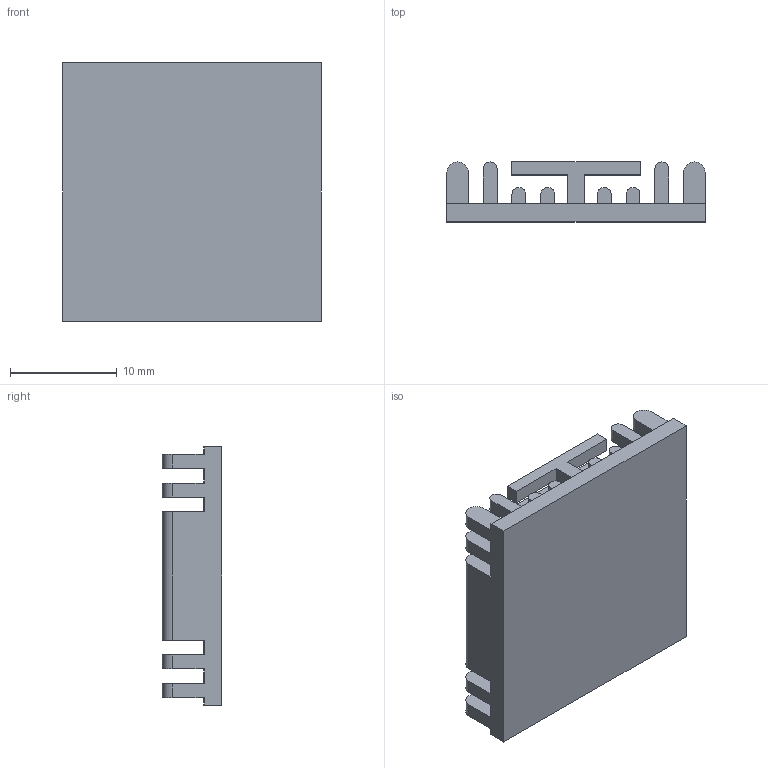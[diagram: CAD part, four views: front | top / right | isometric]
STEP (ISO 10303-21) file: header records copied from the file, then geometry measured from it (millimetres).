
FILE_DESCRIPTION (( 'STEP AP214' ), '1' );
FILE_NAME ('THN-HS1.STEP', '2018-11-05T02:21:45', ( 'user' ), ( '' ), 'SwSTEP 2.0', 'SolidWorks 2016', '' );
FILE_SCHEMA (( 'AUTOMOTIVE_DESIGN' ));
Length unit declared in the file: millimetre
Products named in the file (1): THN-HS1
Bounding box: 24.2 x 5.6 x 24.2 mm (x, y, z)
Volume: 1853.9 mm3; surface area: 2990.1 mm2
Topology: 1 solids, 1 shells, 221 faces, 637 edges, 418 vertices
Faces by surface type: plane 176, cylinder 45
Entity records: 9340 total; most frequent: CARTESIAN_POINT 1277, ORIENTED_EDGE 1274, DIRECTION 1171, EDGE_CURVE 637, LINE 547, VECTOR 547, VERTEX_POINT 418, AXIS2_PLACEMENT_3D 312
